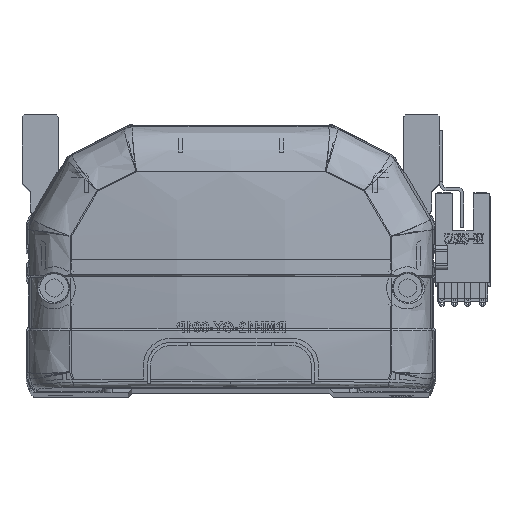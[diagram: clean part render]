
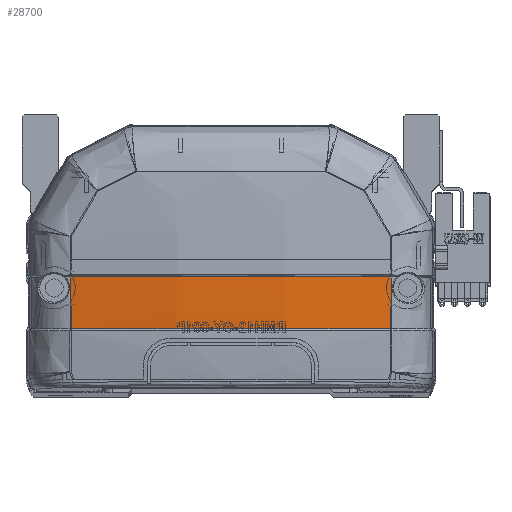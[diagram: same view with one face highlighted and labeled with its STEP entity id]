
A CAD part, top view. The second image highlights one B-rep face of the part: STEP entity #28700.
In plain terms, the highlighted free-form (B-spline) face has degree [3, 3] with [4, 4] control points.
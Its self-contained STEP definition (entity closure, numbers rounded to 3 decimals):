
#1408 = CARTESIAN_POINT ( 'NONE',  ( 39.963, 28.706, -6.372 ) ) ;
#2579 = CARTESIAN_POINT ( 'NONE',  ( 13.375, 28.707, -9.468 ) ) ;
#2963 = CARTESIAN_POINT ( 'NONE',  ( -13.373, 28.707, -9.468 ) ) ;
#3158 = CARTESIAN_POINT ( 'NONE',  ( -33.365, 15.83, -6.848 ) ) ;
#4638 = VERTEX_POINT ( 'NONE', #20295 ) ;
#7080 = CARTESIAN_POINT ( 'NONE',  ( -39.963, 28.706, -6.372 ) ) ;
#7475 = CARTESIAN_POINT ( 'NONE',  ( 26.761, 15.83, -7.945 ) ) ;
#7675 = CARTESIAN_POINT ( 'NONE',  ( -36.679, 15.83, -6.395 ) ) ;
#9748 = EDGE_LOOP ( 'NONE', ( #27327, #15397, #27729, #34165 ) ) ;
#10320 = CARTESIAN_POINT ( 'NONE',  ( 13.598, 15.499, -10.032 ) ) ;
#10564 = VERTEX_POINT ( 'NONE', #43490 ) ;
#10893 = CARTESIAN_POINT ( 'NONE',  ( -13.598, 15.499, -10.032 ) ) ;
#12212 = CARTESIAN_POINT ( 'NONE',  ( -23.389, 15.83, -7.947 ) ) ;
#12416 = CARTESIAN_POINT ( 'NONE',  ( -39.985, 15.83, -5.879 ) ) ;
#14864 = CARTESIAN_POINT ( 'NONE',  ( -13.598, 28.769, -10.535 ) ) ;
#15397 = ORIENTED_EDGE ( 'NONE', *, *, #55313, .F. ) ;
#15416 = CARTESIAN_POINT ( 'NONE',  ( 40.461, 28.832, -6.296 ) ) ;
#15509 = VERTEX_POINT ( 'NONE', #1408 ) ;
#15990 = CARTESIAN_POINT ( 'NONE',  ( -26.748, 28.706, -8.432 ) ) ;
#16411 = CARTESIAN_POINT ( 'NONE',  ( 39.973, 20.12, -6.142 ) ) ;
#19722 = CARTESIAN_POINT ( 'NONE',  ( -13.598, 19.918, -10.302 ) ) ;
#20295 = CARTESIAN_POINT ( 'NONE',  ( -39.963, 28.706, -6.372 ) ) ;
#21083 = CARTESIAN_POINT ( 'NONE',  ( -26.721, 15.83, -7.624 ) ) ;
#21225 = EDGE_CURVE ( 'NONE', #10564, #15509, #52370, .T. ) ;
#22994 = CARTESIAN_POINT ( 'NONE',  ( -39.973, 20.118, -6.142 ) ) ;
#23503 = B_SPLINE_CURVE_WITH_KNOTS ( 'NONE', 3,
 ( #49824, #36335, #22994, #32025 ),
 .UNSPECIFIED., .F., .F.,
 ( 4, 4 ),
 ( 0., 1. ),
 .UNSPECIFIED. ) ;
#23895 = CARTESIAN_POINT ( 'NONE',  ( 13.598, 28.769, -10.535 ) ) ;
#24263 = CARTESIAN_POINT ( 'NONE',  ( -40.461, 28.832, -6.296 ) ) ;
#24666 = FACE_OUTER_BOUND ( 'NONE', #9748, .T. ) ;
#26147 = B_SPLINE_CURVE_WITH_KNOTS ( 'NONE', 3,
 ( #29935, #7475, #52458, #30321, #43437, #12212, #21083, #3158, #7675, #12416 ),
 .UNSPECIFIED., .F., .F.,
 ( 4, 2, 2, 2, 4 ),
 ( 0., 0.04, 0.06, 0.07, 0.08 ),
 .UNSPECIFIED. ) ;
#27327 = ORIENTED_EDGE ( 'NONE', *, *, #21225, .T. ) ;
#27729 = ORIENTED_EDGE ( 'NONE', *, *, #46922, .T. ) ;
#28408 = CARTESIAN_POINT ( 'NONE',  ( -40.461, 24.47, -6.231 ) ) ;
#28700 = ADVANCED_FACE ( 'NONE', ( #24666 ), #45113, .F. ) ;
#29935 = CARTESIAN_POINT ( 'NONE',  ( 39.985, 15.83, -5.879 ) ) ;
#30321 = CARTESIAN_POINT ( 'NONE',  ( -6.692, 15.83, -8.984 ) ) ;
#31160 = B_SPLINE_CURVE_WITH_KNOTS ( 'NONE', 3,
 ( #7080, #15990, #2963, #2579, #43447, #52263 ),
 .UNSPECIFIED., .F., .F.,
 ( 4, 2, 4 ),
 ( 0., 0.5, 1. ),
 .UNSPECIFIED. ) ;
#32025 = CARTESIAN_POINT ( 'NONE',  ( -39.985, 15.83, -5.879 ) ) ;
#34165 = ORIENTED_EDGE ( 'NONE', *, *, #48455, .F. ) ;
#34882 = CARTESIAN_POINT ( 'NONE',  ( 39.985, 15.83, -5.879 ) ) ;
#35456 = VERTEX_POINT ( 'NONE', #37376 ) ;
#36335 = CARTESIAN_POINT ( 'NONE',  ( -39.966, 24.412, -6.306 ) ) ;
#37222 = CARTESIAN_POINT ( 'NONE',  ( 40.461, 24.47, -6.231 ) ) ;
#37376 = CARTESIAN_POINT ( 'NONE',  ( -39.985, 15.83, -5.879 ) ) ;
#37986 = CARTESIAN_POINT ( 'NONE',  ( 40.461, 20.111, -6.066 ) ) ;
#41707 = CARTESIAN_POINT ( 'NONE',  ( 40.461, 15.757, -5.8 ) ) ;
#43437 = CARTESIAN_POINT ( 'NONE',  ( -13.384, 15.83, -8.724 ) ) ;
#43447 = CARTESIAN_POINT ( 'NONE',  ( 26.749, 28.706, -8.432 ) ) ;
#43490 = CARTESIAN_POINT ( 'NONE',  ( 39.985, 15.83, -5.879 ) ) ;
#44275 = CARTESIAN_POINT ( 'NONE',  ( 39.966, 24.413, -6.306 ) ) ;
#45113 =( BOUNDED_SURFACE ( )  B_SPLINE_SURFACE ( 3, 3, ( 
 ( #41707, #37986, #37222, #15416 ),
 ( #10320, #50722, #55306, #23895 ),
 ( #10893, #19722, #51111, #14864 ),
 ( #46215, #50923, #28408, #24263 ) ),
 .UNSPECIFIED., .F., .F., .F. ) 
 B_SPLINE_SURFACE_WITH_KNOTS ( ( 4, 4 ),
 ( 4, 4 ),
 ( 0., 1. ),
 ( 0., 1. ),
 .UNSPECIFIED. ) 
 GEOMETRIC_REPRESENTATION_ITEM ( )  RATIONAL_B_SPLINE_SURFACE ( (
 ( 1., 1., 1., 1.),
 ( 0.992, 0.992, 0.992, 0.992),
 ( 0.992, 0.992, 0.992, 0.992),
 ( 1., 1., 1., 1.) ) ) 
 REPRESENTATION_ITEM ( '' )  SURFACE ( )  );
#46215 = CARTESIAN_POINT ( 'NONE',  ( -40.461, 15.757, -5.8 ) ) ;
#46922 = EDGE_CURVE ( 'NONE', #4638, #35456, #23503, .T. ) ;
#48455 = EDGE_CURVE ( 'NONE', #10564, #35456, #26147, .T. ) ;
#49824 = CARTESIAN_POINT ( 'NONE',  ( -39.963, 28.706, -6.372 ) ) ;
#50722 = CARTESIAN_POINT ( 'NONE',  ( 13.598, 19.918, -10.302 ) ) ;
#50923 = CARTESIAN_POINT ( 'NONE',  ( -40.461, 20.111, -6.066 ) ) ;
#51111 = CARTESIAN_POINT ( 'NONE',  ( -13.598, 24.342, -10.47 ) ) ;
#52263 = CARTESIAN_POINT ( 'NONE',  ( 39.963, 28.706, -6.372 ) ) ;
#52370 = B_SPLINE_CURVE_WITH_KNOTS ( 'NONE', 3,
 ( #34882, #16411, #44275, #53320 ),
 .UNSPECIFIED., .F., .F.,
 ( 4, 4 ),
 ( 0., 1. ),
 .UNSPECIFIED. ) ;
#52458 = CARTESIAN_POINT ( 'NONE',  ( 13.38, 15.83, -8.984 ) ) ;
#53320 = CARTESIAN_POINT ( 'NONE',  ( 39.963, 28.706, -6.372 ) ) ;
#55306 = CARTESIAN_POINT ( 'NONE',  ( 13.598, 24.342, -10.47 ) ) ;
#55313 = EDGE_CURVE ( 'NONE', #4638, #15509, #31160, .T. ) ;
